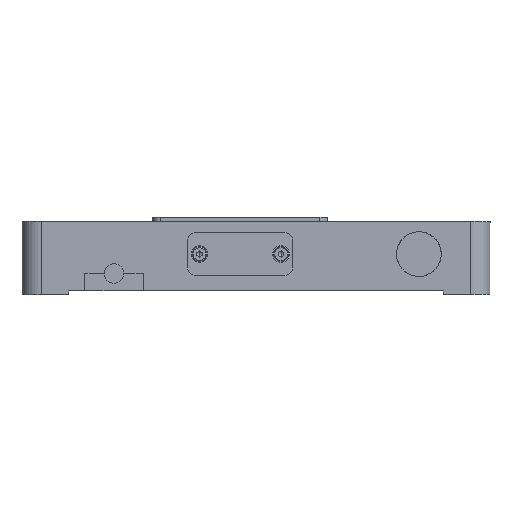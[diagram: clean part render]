
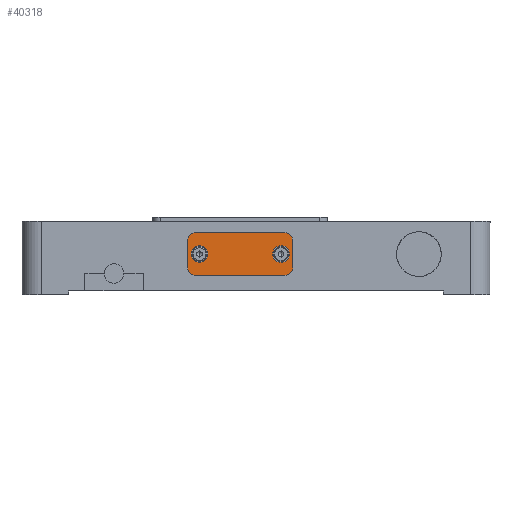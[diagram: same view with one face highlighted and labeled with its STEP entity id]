
A CAD part, front view. The second image highlights one B-rep face of the part: STEP entity #40318.
In plain terms, the highlighted planar face has unit normal (0, -1, 0) as drawn and (0, 0, 1) by its records, which use the part's own axes.
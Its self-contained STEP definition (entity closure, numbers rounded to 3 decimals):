
#973 = VERTEX_POINT ( 'NONE', #43432 ) ;
#2221 = CARTESIAN_POINT ( 'NONE',  ( 18., 4., 30.9 ) ) ;
#2631 = EDGE_CURVE ( 'NONE', #17447, #47736, #34677, .T. ) ;
#2814 = VERTEX_POINT ( 'NONE', #28724 ) ;
#3112 = AXIS2_PLACEMENT_3D ( 'NONE', #2221, #17639, #48481 ) ;
#3577 = ORIENTED_EDGE ( 'NONE', *, *, #46843, .F. ) ;
#4791 = DIRECTION ( 'NONE',  ( 1., 0., 0. ) ) ;
#5572 = ORIENTED_EDGE ( 'NONE', *, *, #15822, .T. ) ;
#6116 = CARTESIAN_POINT ( 'NONE',  ( 19., 7.5, 30.9 ) ) ;
#6149 = CARTESIAN_POINT ( 'NONE',  ( 21., -1.5, 30.9 ) ) ;
#6507 = EDGE_LOOP ( 'NONE', ( #21562, #5572, #15956, #35285, #20992, #8944, #18604, #26516 ) ) ;
#6631 = AXIS2_PLACEMENT_3D ( 'NONE', #48078, #17733, #40752 ) ;
#7202 = CARTESIAN_POINT ( 'NONE',  ( 21., 7.5, 30.9 ) ) ;
#7621 = DIRECTION ( 'NONE',  ( 0., -1., 0. ) ) ;
#8204 = CIRCLE ( 'NONE', #23519, 2. ) ;
#8944 = ORIENTED_EDGE ( 'NONE', *, *, #18618, .T. ) ;
#9202 = CARTESIAN_POINT ( 'NONE',  ( 19., -1.5, 30.9 ) ) ;
#10223 = CARTESIAN_POINT ( 'NONE',  ( -4., 7.5, 30.9 ) ) ;
#10512 = DIRECTION ( 'NONE',  ( 0., 0., 1. ) ) ;
#11298 = EDGE_CURVE ( 'NONE', #21860, #37665, #8204, .T. ) ;
#11682 = CARTESIAN_POINT ( 'NONE',  ( -3., 4., 30.9 ) ) ;
#12266 = VERTEX_POINT ( 'NONE', #33598 ) ;
#13187 = PLANE ( 'NONE',  #45787 ) ;
#13447 = EDGE_CURVE ( 'NONE', #37665, #27093, #36401, .T. ) ;
#13492 = ORIENTED_EDGE ( 'NONE', *, *, #17802, .F. ) ;
#13899 = CARTESIAN_POINT ( 'NONE',  ( -6., 9.5, 30.9 ) ) ;
#13907 = AXIS2_PLACEMENT_3D ( 'NONE', #11682, #30626, #42270 ) ;
#13942 = DIRECTION ( 'NONE',  ( -1., 0., 0. ) ) ;
#14153 = VERTEX_POINT ( 'NONE', #27696 ) ;
#15150 = CARTESIAN_POINT ( 'NONE',  ( 19., 9.5, 30.9 ) ) ;
#15220 = FACE_BOUND ( 'NONE', #29251, .T. ) ;
#15822 = EDGE_CURVE ( 'NONE', #39878, #14153, #36800, .T. ) ;
#15956 = ORIENTED_EDGE ( 'NONE', *, *, #29278, .T. ) ;
#17315 = EDGE_CURVE ( 'NONE', #973, #32318, #23644, .T. ) ;
#17447 = VERTEX_POINT ( 'NONE', #32965 ) ;
#17639 = DIRECTION ( 'NONE',  ( 0., 0., 1. ) ) ;
#17733 = DIRECTION ( 'NONE',  ( 0., 0., 1. ) ) ;
#17802 = EDGE_CURVE ( 'NONE', #12266, #2814, #39743, .T. ) ;
#18604 = ORIENTED_EDGE ( 'NONE', *, *, #35782, .T. ) ;
#18618 = EDGE_CURVE ( 'NONE', #27093, #18671, #35731, .T. ) ;
#18671 = VERTEX_POINT ( 'NONE', #48899 ) ;
#18899 = CARTESIAN_POINT ( 'NONE',  ( -4., -1.5, 30.9 ) ) ;
#20201 = CARTESIAN_POINT ( 'NONE',  ( -6., -1.5, 30.9 ) ) ;
#20268 = FACE_BOUND ( 'NONE', #22541, .T. ) ;
#20992 = ORIENTED_EDGE ( 'NONE', *, *, #13447, .T. ) ;
#21562 = ORIENTED_EDGE ( 'NONE', *, *, #24503, .T. ) ;
#21860 = VERTEX_POINT ( 'NONE', #7202 ) ;
#22541 = EDGE_LOOP ( 'NONE', ( #13492, #3577 ) ) ;
#23519 = AXIS2_PLACEMENT_3D ( 'NONE', #6116, #33148, #13942 ) ;
#23644 = CIRCLE ( 'NONE', #43716, 2.15 ) ;
#23931 = DIRECTION ( 'NONE',  ( -1., 0., 0. ) ) ;
#24503 = EDGE_CURVE ( 'NONE', #47736, #39878, #27295, .T. ) ;
#24558 = DIRECTION ( 'NONE',  ( 0., 0., -1. ) ) ;
#25644 = DIRECTION ( 'NONE',  ( 0., 0., 1. ) ) ;
#25825 = AXIS2_PLACEMENT_3D ( 'NONE', #27232, #27729, #23931 ) ;
#26516 = ORIENTED_EDGE ( 'NONE', *, *, #2631, .T. ) ;
#27093 = VERTEX_POINT ( 'NONE', #48456 ) ;
#27232 = CARTESIAN_POINT ( 'NONE',  ( -4., 0.5, 30.9 ) ) ;
#27295 = LINE ( 'NONE', #20201, #40696 ) ;
#27646 = AXIS2_PLACEMENT_3D ( 'NONE', #10223, #25644, #41056 ) ;
#27672 = DIRECTION ( 'NONE',  ( 0., 0., 1. ) ) ;
#27696 = CARTESIAN_POINT ( 'NONE',  ( 21., 0.5, 30.9 ) ) ;
#27729 = DIRECTION ( 'NONE',  ( 0., 0., 1. ) ) ;
#28724 = CARTESIAN_POINT ( 'NONE',  ( -5.15, 4., 30.9 ) ) ;
#29235 = CIRCLE ( 'NONE', #13907, 2.15 ) ;
#29251 = EDGE_LOOP ( 'NONE', ( #37560, #36054 ) ) ;
#29278 = EDGE_CURVE ( 'NONE', #14153, #21860, #43543, .T. ) ;
#29306 = DIRECTION ( 'NONE',  ( -1., 0., 0. ) ) ;
#30626 = DIRECTION ( 'NONE',  ( 0., 0., 1. ) ) ;
#30690 = CARTESIAN_POINT ( 'NONE',  ( 19., 0.5, 30.9 ) ) ;
#30886 = FACE_OUTER_BOUND ( 'NONE', #6507, .T. ) ;
#32318 = VERTEX_POINT ( 'NONE', #37390 ) ;
#32965 = CARTESIAN_POINT ( 'NONE',  ( -6., 0.5, 30.9 ) ) ;
#33148 = DIRECTION ( 'NONE',  ( 0., 0., 1. ) ) ;
#33598 = CARTESIAN_POINT ( 'NONE',  ( -0.85, 4., 30.9 ) ) ;
#34288 = VECTOR ( 'NONE', #7621, 1000. ) ;
#34677 = CIRCLE ( 'NONE', #25825, 2. ) ;
#35285 = ORIENTED_EDGE ( 'NONE', *, *, #11298, .T. ) ;
#35731 = CIRCLE ( 'NONE', #27646, 2. ) ;
#35782 = EDGE_CURVE ( 'NONE', #18671, #17447, #38461, .T. ) ;
#36054 = ORIENTED_EDGE ( 'NONE', *, *, #42796, .F. ) ;
#36192 = CARTESIAN_POINT ( 'NONE',  ( 0., 0., 30.9 ) ) ;
#36401 = LINE ( 'NONE', #13899, #39132 ) ;
#36800 = CIRCLE ( 'NONE', #49674, 2. ) ;
#37390 = CARTESIAN_POINT ( 'NONE',  ( 15.85, 4., 30.9 ) ) ;
#37560 = ORIENTED_EDGE ( 'NONE', *, *, #17315, .F. ) ;
#37665 = VERTEX_POINT ( 'NONE', #15150 ) ;
#38461 = LINE ( 'NONE', #46779, #34288 ) ;
#39132 = VECTOR ( 'NONE', #29306, 1000. ) ;
#39542 = CARTESIAN_POINT ( 'NONE',  ( 18., 4., 30.9 ) ) ;
#39743 = CIRCLE ( 'NONE', #6631, 2.15 ) ;
#39878 = VERTEX_POINT ( 'NONE', #9202 ) ;
#40318 = ADVANCED_FACE ( 'NONE', ( #20268, #15220, #30886 ), #13187, .F. ) ;
#40696 = VECTOR ( 'NONE', #4791, 1000. ) ;
#40752 = DIRECTION ( 'NONE',  ( 1., 0., 0. ) ) ;
#41056 = DIRECTION ( 'NONE',  ( -1., 0., 0. ) ) ;
#42270 = DIRECTION ( 'NONE',  ( 1., 0., 0. ) ) ;
#42659 = CIRCLE ( 'NONE', #3112, 2.15 ) ;
#42796 = EDGE_CURVE ( 'NONE', #32318, #973, #42659, .T. ) ;
#43081 = DIRECTION ( 'NONE',  ( 1., 0., 0. ) ) ;
#43432 = CARTESIAN_POINT ( 'NONE',  ( 20.15, 4., 30.9 ) ) ;
#43543 = LINE ( 'NONE', #6149, #47603 ) ;
#43716 = AXIS2_PLACEMENT_3D ( 'NONE', #39542, #27672, #43081 ) ;
#45299 = DIRECTION ( 'NONE',  ( 0., 1., 0. ) ) ;
#45636 = DIRECTION ( 'NONE',  ( -1., 0., 0. ) ) ;
#45787 = AXIS2_PLACEMENT_3D ( 'NONE', #36192, #24558, #48312 ) ;
#46779 = CARTESIAN_POINT ( 'NONE',  ( -6., -1.5, 30.9 ) ) ;
#46843 = EDGE_CURVE ( 'NONE', #2814, #12266, #29235, .T. ) ;
#47603 = VECTOR ( 'NONE', #45299, 1000. ) ;
#47736 = VERTEX_POINT ( 'NONE', #18899 ) ;
#48078 = CARTESIAN_POINT ( 'NONE',  ( -3., 4., 30.9 ) ) ;
#48312 = DIRECTION ( 'NONE',  ( -1., 0., 0. ) ) ;
#48456 = CARTESIAN_POINT ( 'NONE',  ( -4., 9.5, 30.9 ) ) ;
#48481 = DIRECTION ( 'NONE',  ( 1., 0., 0. ) ) ;
#48899 = CARTESIAN_POINT ( 'NONE',  ( -6., 7.5, 30.9 ) ) ;
#49674 = AXIS2_PLACEMENT_3D ( 'NONE', #30690, #10512, #45636 ) ;
